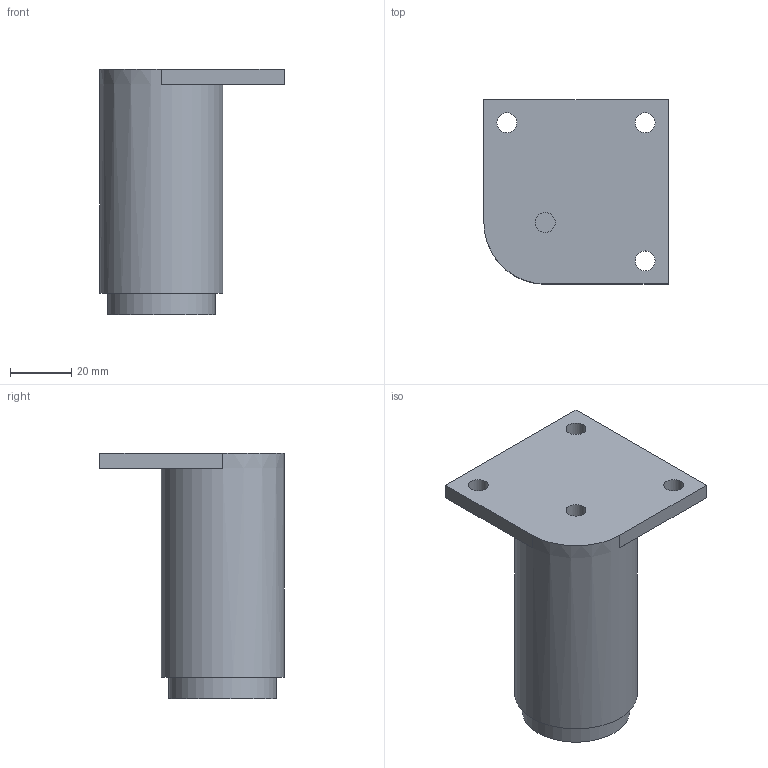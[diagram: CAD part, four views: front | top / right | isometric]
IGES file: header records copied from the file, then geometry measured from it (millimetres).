
Start section: Data from Parasolid IGES Translator 20.0.26, Copyright(c) 2006 Siemens P LM Software. All Rights Reserved.
Global section: file name: 9119551.igs; native system: By Siemens PLM Incorporated; preprocessor: XPlus GENERIC/IGES 20.0.26; author: Noname; organization: Noname; date: 20210125.170624; units: millimetre
Bounding box: 60 x 60 x 80 mm (x, y, z)
Surface area: 17709.5 mm2 (no closed solid volume)
Topology: 0 solids, 0 shells, 15 faces, 66 edges, 57 vertices
Faces by surface type: extrusion 9, revolution 6
